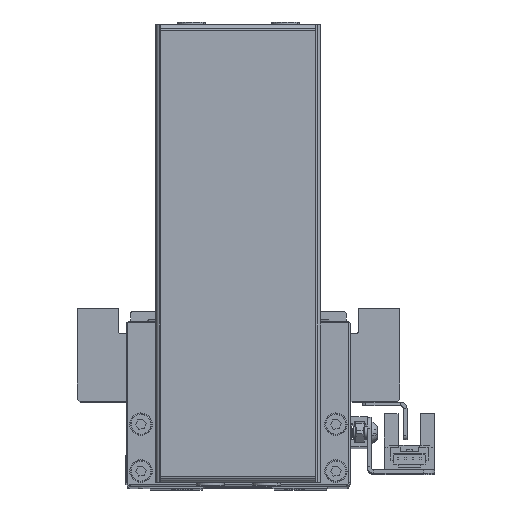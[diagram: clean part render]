
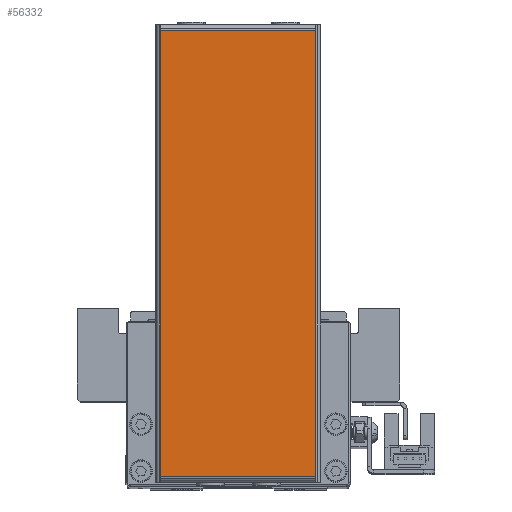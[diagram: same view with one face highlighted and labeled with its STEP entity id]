
A CAD part, top view. The second image highlights one B-rep face of the part: STEP entity #56332.
In plain terms, the highlighted planar face has unit normal (0, 0, 1) as drawn and (0, 0, -1) by its records, which use the part's own axes.
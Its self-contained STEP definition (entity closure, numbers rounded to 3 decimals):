
#3292 = VERTEX_POINT ( 'NONE', #13132 ) ;
#4833 = VECTOR ( 'NONE', #24756, 1000. ) ;
#6633 = DIRECTION ( 'NONE',  ( 0., 1., 0. ) ) ;
#12073 = CARTESIAN_POINT ( 'NONE',  ( 120.5, 42.7, -1. ) ) ;
#12697 = ORIENTED_EDGE ( 'NONE', *, *, #41468, .T. ) ;
#13132 = CARTESIAN_POINT ( 'NONE',  ( 1.5, 42.7, -1. ) ) ;
#13880 = VECTOR ( 'NONE', #6633, 1000. ) ;
#15167 = LINE ( 'NONE', #60675, #66873 ) ;
#17554 = DIRECTION ( 'NONE',  ( -1., 0., 0. ) ) ;
#18353 = CARTESIAN_POINT ( 'NONE',  ( 120.5, 1.3, -1. ) ) ;
#20207 = CARTESIAN_POINT ( 'NONE',  ( 122., 1.3, -1. ) ) ;
#24756 = DIRECTION ( 'NONE',  ( -1., 0., 0. ) ) ;
#24914 = CARTESIAN_POINT ( 'NONE',  ( 120.5, 42.7, -1. ) ) ;
#25242 = AXIS2_PLACEMENT_3D ( 'NONE', #64328, #33632, #17554 ) ;
#30803 = VECTOR ( 'NONE', #61513, 1000. ) ;
#31644 = FACE_OUTER_BOUND ( 'NONE', #35263, .T. ) ;
#32460 = EDGE_CURVE ( 'NONE', #61328, #3292, #37440, .T. ) ;
#33632 = DIRECTION ( 'NONE',  ( 0., 0., -1. ) ) ;
#35263 = EDGE_LOOP ( 'NONE', ( #49487, #12697, #45611, #65093 ) ) ;
#37440 = LINE ( 'NONE', #64017, #13880 ) ;
#41468 = EDGE_CURVE ( 'NONE', #53708, #56977, #44572, .T. ) ;
#41587 = CARTESIAN_POINT ( 'NONE',  ( 1.5, 1.3, -1. ) ) ;
#42884 = LINE ( 'NONE', #20207, #4833 ) ;
#43459 = EDGE_CURVE ( 'NONE', #3292, #53708, #15167, .T. ) ;
#44572 = LINE ( 'NONE', #24914, #30803 ) ;
#45611 = ORIENTED_EDGE ( 'NONE', *, *, #63434, .T. ) ;
#49487 = ORIENTED_EDGE ( 'NONE', *, *, #43459, .T. ) ;
#53708 = VERTEX_POINT ( 'NONE', #12073 ) ;
#54608 = PLANE ( 'NONE',  #25242 ) ;
#56332 = ADVANCED_FACE ( 'NONE', ( #31644 ), #54608, .T. ) ;
#56977 = VERTEX_POINT ( 'NONE', #18353 ) ;
#60675 = CARTESIAN_POINT ( 'NONE',  ( 0., 42.7, -1. ) ) ;
#61328 = VERTEX_POINT ( 'NONE', #41587 ) ;
#61513 = DIRECTION ( 'NONE',  ( 0., -1., 0. ) ) ;
#63434 = EDGE_CURVE ( 'NONE', #56977, #61328, #42884, .T. ) ;
#64017 = CARTESIAN_POINT ( 'NONE',  ( 1.5, 1.3, -1. ) ) ;
#64328 = CARTESIAN_POINT ( 'NONE',  ( 0., 0., -1. ) ) ;
#65093 = ORIENTED_EDGE ( 'NONE', *, *, #32460, .T. ) ;
#66300 = DIRECTION ( 'NONE',  ( 1., 0., 0. ) ) ;
#66873 = VECTOR ( 'NONE', #66300, 1000. ) ;
